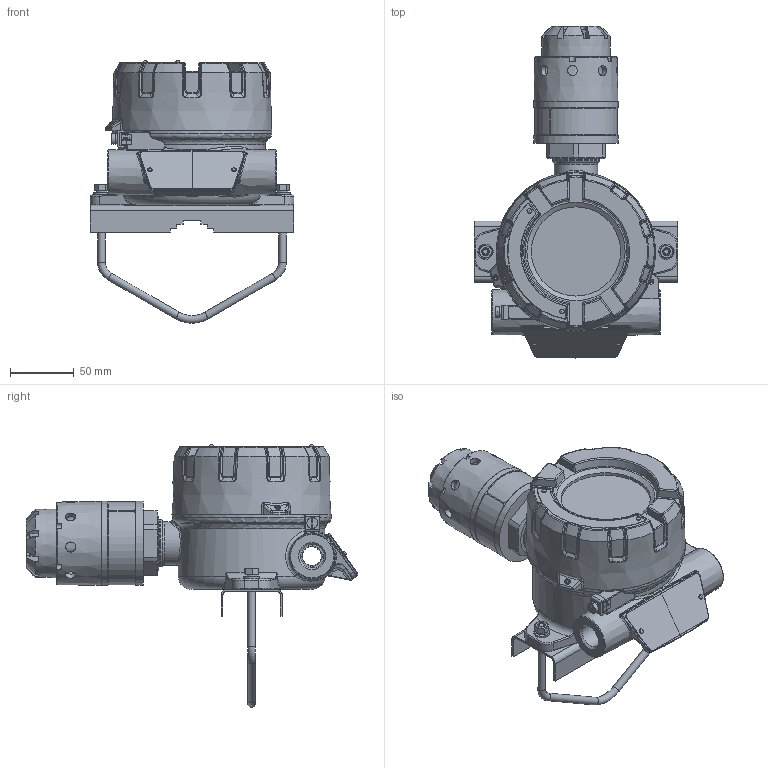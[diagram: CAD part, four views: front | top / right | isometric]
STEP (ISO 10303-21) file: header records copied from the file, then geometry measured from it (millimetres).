
FILE_DESCRIPTION(('STEP AP214'), '1');
FILE_NAME('ÄÃÑ ÝÐÈÑ-210 (êîðïóñ òèïà Á) ñ êîìïëåêòîì äëÿ êðåïëåíèÿ_3D ìîäåëü', '', ('UNSPECIFIED'), ('UNSPECIFIED'), 'C3D Converter', 'C3D Toolkit', '');
FILE_SCHEMA(('AUTOMOTIVE_DESIGN { 1 0 10303 214 3 1 1}'));
Length unit declared in the file: millimetre
Products named in the file (1): АПНС.413216.212
Bounding box: 160 x 260.43 x 206.01 mm (x, y, z)
Volume: 780628.4 mm3; surface area: 315615.8 mm2
Topology: 39 solids, 39 shells, 1655 faces, 4143 edges, 2548 vertices
Faces by surface type: plane 522, bspline 453, cylinder 385, cone 185, torus 96, sphere 14
Full cylindrical faces by diameter (mm): 0.8 x3, 1.4 x9, 2 x9, 2.459 x11, 2.5 x4, 3.242 x2, 3.5 x2, 3.6 x4, 4 x3, 4.134 x1, 4.5 x1, 4.917 x2, 5 x2, 5.064 x1, 6 x5, 6.4 x2, 7 x1, 7.5 x1, 7.95 x8, 8.5 x1, 10 x1, 10.106 x1, 10.15 x1, 11.4 x1, 12 x2, 17 x1, 18.376 x3, 20 x1, 30 x3, 32 x2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
Entity records: 120593 total; most frequent: CARTESIAN_POINT 72879, ORIENTED_EDGE 7696, DIRECTION 5604, EDGE_CURVE 3848, VERTEX_POINT 2528, AXIS2_PLACEMENT_3D 2265, EDGE_LOOP 2014, COLOUR_RGB 1694
